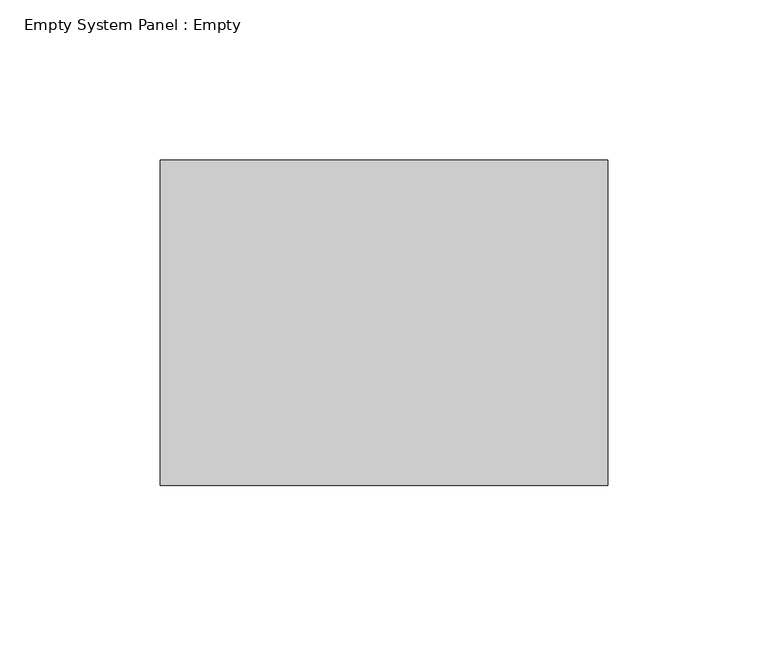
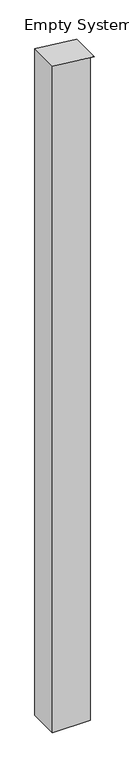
"""IFC4 building model written with IfcOpenShell, lengths in millimetres: plate geometry, Empty System Panel : Empty."""

from ifc_helpers import new_model, si_unit, frame, origin, place, context, project, spatial, polyline, outline, extrude, source, transform, mapped, element, save


def empty_system_panel_empty_addc306d(model_context):
    return source(origin(), model_context, "Body", "SweptSolid", [
        extrude(outline(polyline([(0.0, -69.85), (0.0, 57.15), (2349.3064692, 57.15), (2349.3064692, 69.85), (2364.9316591, -69.85), (0.0, -69.85)])), frame((0.0, -50.8, 0.0), z_axis=(0.0, 1.0, 0.0), x_axis=(0.0, 0.0, 1.0)), (0.0, 0.0, 1.0), 101.6),
    ])


if __name__ == "__main__":
    model = new_model("IFC4")
    model_context = context("Model", 3, world=origin())
    ifc_project = project(units=[si_unit("LENGTHUNIT", "METRE", prefix="MILLI")], contexts=[model_context])
    site = spatial("IfcSite", under=ifc_project)
    building = spatial("IfcBuilding", under=site)
    placement = place(None, origin())
    empty_system_panel_empty_shape = empty_system_panel_empty_addc306d(model_context)
    element("IfcPlate", 1, ObjectType="Empty System Panel : Empty", at=placement, inside=building, context=model_context, shape_type="MappedRepresentation", body=[
        mapped(empty_system_panel_empty_shape, transform((0.0, 0.0, 0.0), x_axis=(1.0, 0.0, 0.0), y_axis=(0.0, 1.0, 0.0), z_axis=(0.0, 0.0, 1.0))),
    ])
    save(model, "model.ifc")
